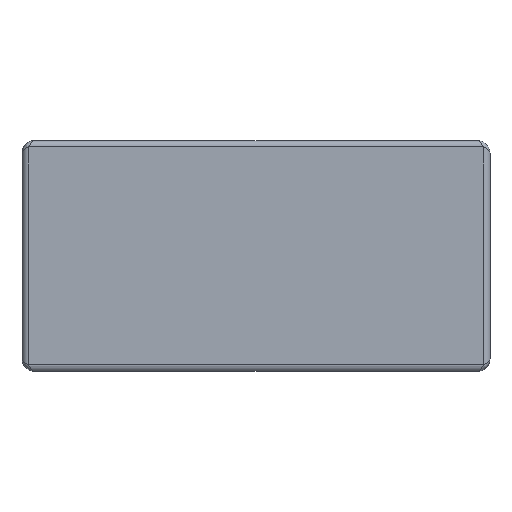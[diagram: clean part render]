
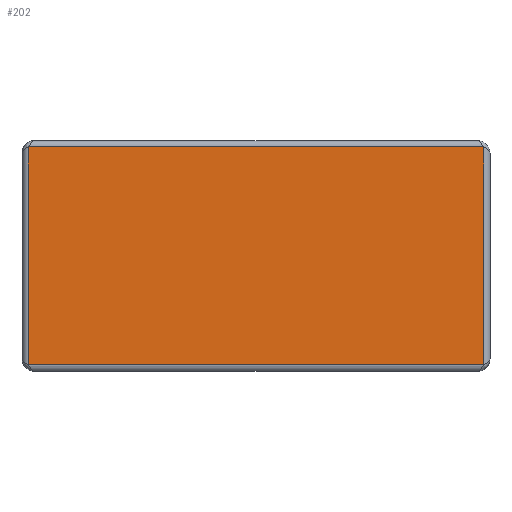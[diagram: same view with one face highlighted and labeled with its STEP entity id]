
A CAD part, top view. The second image highlights one B-rep face of the part: STEP entity #202.
In plain terms, the highlighted planar face has unit normal (0, 0, 1).
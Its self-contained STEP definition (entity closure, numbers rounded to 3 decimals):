
#202=ADVANCED_FACE('',(#445),#447,.T.);
#445=FACE_BOUND('',#446,.T.);
#446=EDGE_LOOP('',(#624,#625,#626,#627));
#447=PLANE('',#448);
#448=AXIS2_PLACEMENT_3D('',#449,#450,#451);
#449=CARTESIAN_POINT('',(0.,0.,14.5));
#450=DIRECTION('',(0.,0.,1.));
#451=DIRECTION('',(1.,0.,0.));
#624=ORIENTED_EDGE('',*,*,#688,.T.);
#625=ORIENTED_EDGE('',*,*,#689,.T.);
#626=ORIENTED_EDGE('',*,*,#690,.T.);
#627=ORIENTED_EDGE('',*,*,#671,.T.);
#671=EDGE_CURVE('',#733,#735,#737,.T.);
#688=EDGE_CURVE('',#735,#761,#762,.T.);
#689=EDGE_CURVE('',#761,#763,#764,.T.);
#690=EDGE_CURVE('',#763,#733,#765,.T.);
#733=VERTEX_POINT('',#886);
#735=VERTEX_POINT('',#904);
#737=LINE('',#922,#923);
#761=VERTEX_POINT('',#1040);
#762=LINE('',#1041,#1042);
#763=VERTEX_POINT('',#1044);
#764=LINE('',#1045,#1046);
#765=LINE('',#1048,#1049);
#886=CARTESIAN_POINT('',(70.,-5.,14.5));
#904=CARTESIAN_POINT('',(70.,29.,14.5));
#922=CARTESIAN_POINT('',(70.,-5.,14.5));
#923=VECTOR('',#924,1.);
#924=DIRECTION('',(0.,1.,0.));
#1040=CARTESIAN_POINT('',(-1.,29.,14.5));
#1041=CARTESIAN_POINT('',(70.,29.,14.5));
#1042=VECTOR('',#1043,1.);
#1043=DIRECTION('',(-1.,0.,0.));
#1044=CARTESIAN_POINT('',(-1.,-5.,14.5));
#1045=CARTESIAN_POINT('',(-1.,29.,14.5));
#1046=VECTOR('',#1047,1.);
#1047=DIRECTION('',(0.,-1.,0.));
#1048=CARTESIAN_POINT('',(-1.,-5.,14.5));
#1049=VECTOR('',#1050,1.);
#1050=DIRECTION('',(1.,0.,0.));
